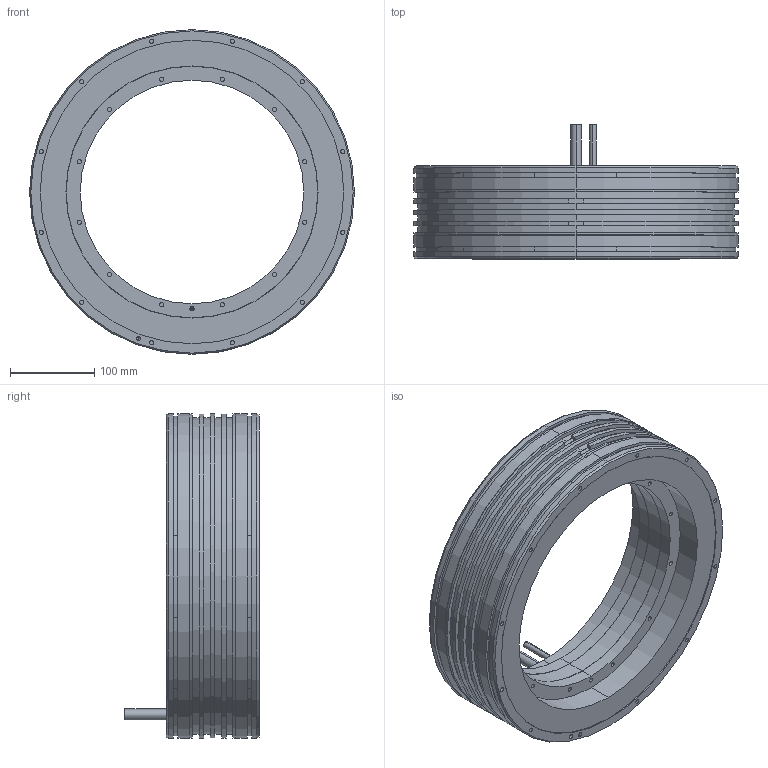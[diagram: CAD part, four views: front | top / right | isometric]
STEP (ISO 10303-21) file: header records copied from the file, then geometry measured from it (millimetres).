
FILE_DESCRIPTION (( 'STEP AP203' ), '1' );
FILE_NAME ('TM-2-A5.STEP', '2020-10-20T05:54:37', ( '' ), ( '' ), 'SwSTEP 2.0', 'SolidWorks 2015', '' );
FILE_SCHEMA (( 'CONFIG_CONTROL_DESIGN' ));
Length unit declared in the file: millimetre
Products named in the file (3): TM-2-AX_stator_TM-2-A5_stator; TM-2-AX_rotor_TM-2-A5_rotor; TM-2-A5
Assembly tree (2 placements, depth 2):
  TM-2-A5
    TM-2-AX_stator_TM-2-A5_stator
    TM-2-AX_rotor_TM-2-A5_rotor
Bounding box: 385 x 159 x 385 mm (x, y, z)
Volume: 5523790.3 mm3; surface area: 521445.8 mm2
Topology: 2 solids, 2 shells, 246 faces, 514 edges, 328 vertices
Faces by surface type: cylinder 151, plane 79, cone 16
Entity records: 6925 total; most frequent: DIRECTION 1314, CARTESIAN_POINT 1085, ORIENTED_EDGE 1012, AXIS2_PLACEMENT_3D 557, EDGE_CURVE 506, VERTEX_POINT 328, EDGE_LOOP 314, CIRCLE 306
